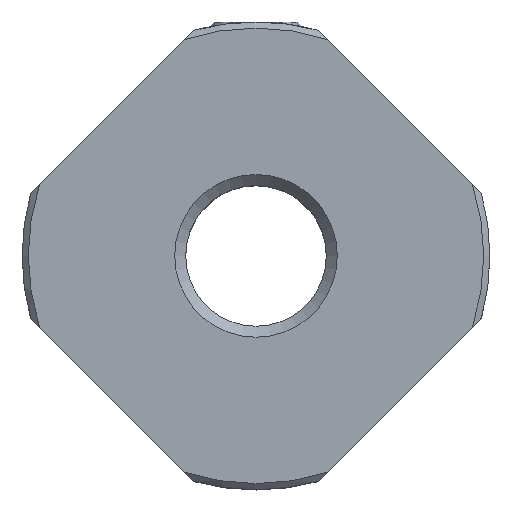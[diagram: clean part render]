
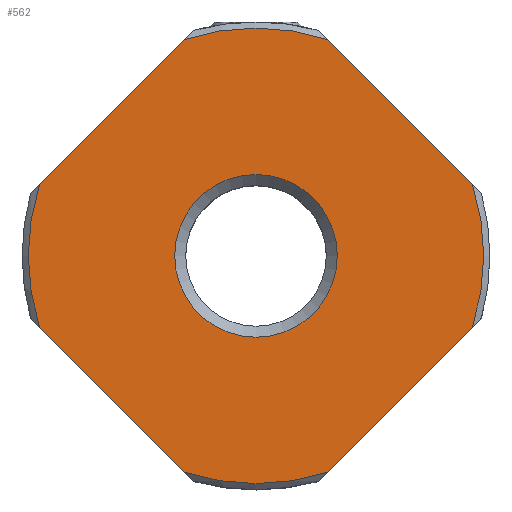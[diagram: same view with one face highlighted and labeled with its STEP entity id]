
A CAD part, top view. The second image highlights one B-rep face of the part: STEP entity #562.
In plain terms, the highlighted planar face has unit normal (0, 0, 1).
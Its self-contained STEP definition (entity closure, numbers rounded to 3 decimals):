
#32=PLANE('',#617);
#50=LINE('',#878,#84);
#51=LINE('',#882,#85);
#52=LINE('',#886,#86);
#53=LINE('',#890,#87);
#84=VECTOR('',#697,1000.);
#85=VECTOR('',#700,1000.);
#86=VECTOR('',#703,1000.);
#87=VECTOR('',#706,1000.);
#146=ORIENTED_EDGE('',*,*,#300,.F.);
#147=ORIENTED_EDGE('',*,*,#301,.T.);
#148=ORIENTED_EDGE('',*,*,#302,.F.);
#149=ORIENTED_EDGE('',*,*,#303,.T.);
#150=ORIENTED_EDGE('',*,*,#304,.F.);
#151=ORIENTED_EDGE('',*,*,#305,.T.);
#152=ORIENTED_EDGE('',*,*,#306,.F.);
#153=ORIENTED_EDGE('',*,*,#307,.T.);
#154=ORIENTED_EDGE('',*,*,#308,.T.);
#300=EDGE_CURVE('',#378,#379,#430,.T.);
#301=EDGE_CURVE('',#378,#380,#50,.T.);
#302=EDGE_CURVE('',#381,#380,#431,.T.);
#303=EDGE_CURVE('',#381,#382,#51,.T.);
#304=EDGE_CURVE('',#383,#382,#432,.T.);
#305=EDGE_CURVE('',#383,#384,#52,.T.);
#306=EDGE_CURVE('',#385,#384,#433,.T.);
#307=EDGE_CURVE('',#385,#379,#53,.T.);
#308=EDGE_CURVE('',#386,#386,#434,.T.);
#378=VERTEX_POINT('',#876);
#379=VERTEX_POINT('',#877);
#380=VERTEX_POINT('',#879);
#381=VERTEX_POINT('',#881);
#382=VERTEX_POINT('',#883);
#383=VERTEX_POINT('',#885);
#384=VERTEX_POINT('',#887);
#385=VERTEX_POINT('',#889);
#386=VERTEX_POINT('',#892);
#430=CIRCLE('',#618,5.6);
#431=CIRCLE('',#619,5.6);
#432=CIRCLE('',#620,5.6);
#433=CIRCLE('',#621,5.6);
#434=CIRCLE('',#622,2.);
#459=EDGE_LOOP('',(#146,#147,#148,#149,#150,#151,#152,#153));
#460=EDGE_LOOP('',(#154));
#509=FACE_BOUND('',#459,.T.);
#510=FACE_BOUND('',#460,.T.);
#562=ADVANCED_FACE('',(#509,#510),#32,.F.);
#617=AXIS2_PLACEMENT_3D('',#874,#693,#694);
#618=AXIS2_PLACEMENT_3D('',#875,#695,#696);
#619=AXIS2_PLACEMENT_3D('',#880,#698,#699);
#620=AXIS2_PLACEMENT_3D('',#884,#701,#702);
#621=AXIS2_PLACEMENT_3D('',#888,#704,#705);
#622=AXIS2_PLACEMENT_3D('',#891,#707,#708);
#693=DIRECTION('',(0.,0.,-1.));
#694=DIRECTION('',(-1.,0.,0.));
#695=DIRECTION('',(0.,0.,-1.));
#696=DIRECTION('',(-1.,0.,0.));
#697=DIRECTION('',(-0.707,-0.707,0.));
#698=DIRECTION('',(0.,0.,-1.));
#699=DIRECTION('',(-1.,0.,0.));
#700=DIRECTION('',(0.707,-0.707,0.));
#701=DIRECTION('',(0.,0.,-1.));
#702=DIRECTION('',(-1.,0.,0.));
#703=DIRECTION('',(0.707,0.707,0.));
#704=DIRECTION('',(0.,0.,-1.));
#705=DIRECTION('',(-1.,0.,0.));
#706=DIRECTION('',(-0.707,0.707,0.));
#707=DIRECTION('',(0.,0.,-1.));
#708=DIRECTION('',(-1.,0.,0.));
#874=CARTESIAN_POINT('',(0.,0.,5.));
#875=CARTESIAN_POINT('',(0.,0.,5.));
#876=CARTESIAN_POINT('',(-1.752,5.319,5.));
#877=CARTESIAN_POINT('',(1.752,5.319,5.));
#878=CARTESIAN_POINT('',(0.,7.071,5.));
#879=CARTESIAN_POINT('',(-5.319,1.752,5.));
#880=CARTESIAN_POINT('',(0.,0.,5.));
#881=CARTESIAN_POINT('',(-5.319,-1.752,5.));
#882=CARTESIAN_POINT('',(-7.071,0.,5.));
#883=CARTESIAN_POINT('',(-1.752,-5.319,5.));
#884=CARTESIAN_POINT('',(0.,0.,5.));
#885=CARTESIAN_POINT('',(1.752,-5.319,5.));
#886=CARTESIAN_POINT('',(0.,-7.071,5.));
#887=CARTESIAN_POINT('',(5.319,-1.752,5.));
#888=CARTESIAN_POINT('',(0.,0.,5.));
#889=CARTESIAN_POINT('',(5.319,1.752,5.));
#890=CARTESIAN_POINT('',(7.071,0.,5.));
#891=CARTESIAN_POINT('',(0.,0.,5.));
#892=CARTESIAN_POINT('',(-2.,0.,5.));
